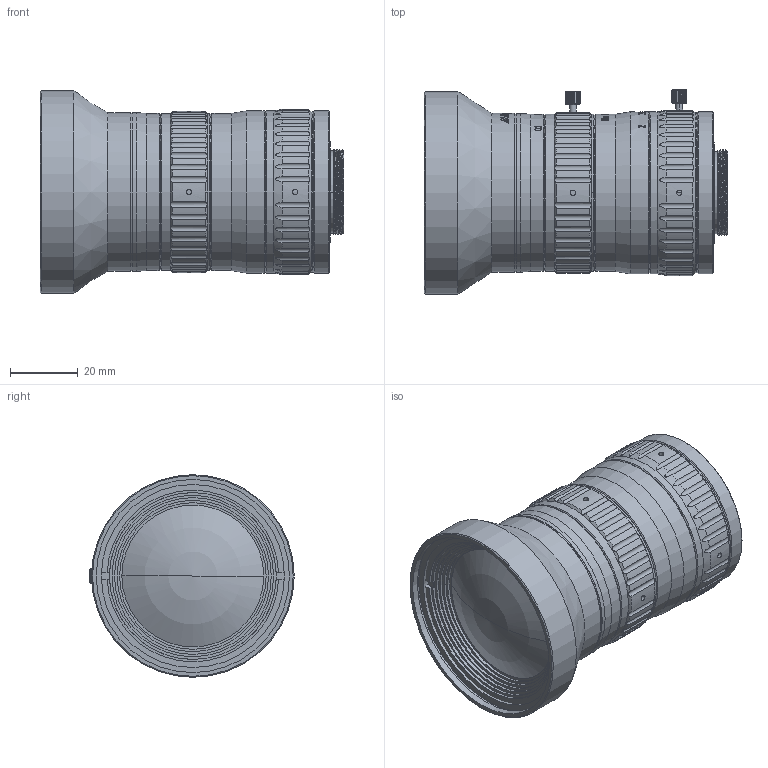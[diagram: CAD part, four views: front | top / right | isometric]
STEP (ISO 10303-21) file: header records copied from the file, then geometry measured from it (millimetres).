
FILE_DESCRIPTION(/* description */ (''),/* implementation_level */ '2;1');
FILE_NAME(/* name */ 'SA1620M-10MP_20260303.stp',/* time_stamp */ '2026-03-03T16:00:48+08:00',/* author */ (''),/* organization */ (''),/* preprocessor_version */ 'ST-DEVELOPER v20',/* originating_system */ 'SIEMENS PLM Software NX2312.1700',/* authorisation */ '');
FILE_SCHEMA (('AUTOMOTIVE_DESIGN { 1 0 10303 214 3 1 1 1 }'));
Length unit declared in the file: millimetre
Products named in the file (1): SA1620M-10MP
Bounding box: 89.89 x 60.5 x 60 mm (x, y, z)
Volume: 97623.6 mm3; surface area: 64150.1 mm2
Topology: 2 solids, 13 shells, 2247 faces, 6205 edges, 4122 vertices
Faces by surface type: plane 867, bspline 676, cylinder 621, cone 69, sphere 8, torus 6
Full cylindrical faces by diameter (mm): 1.3 x3, 44.7 x1, 46 x1, 46.5 x3, 46.8 x1, 47 x2, 47.4 x1, 48 x3, 54.2 x1, 55.2 x1, 57.2 x1, 58.2 x1, 60 x1
Entity records: 90868 total; most frequent: CARTESIAN_POINT 39434, ORIENTED_EDGE 12294, DIRECTION 7162, EDGE_CURVE 6147, VERTEX_POINT 4104, B_SPLINE_CURVE_WITH_KNOTS 3393, AXIS2_PLACEMENT_3D 2838, EDGE_LOOP 2479
